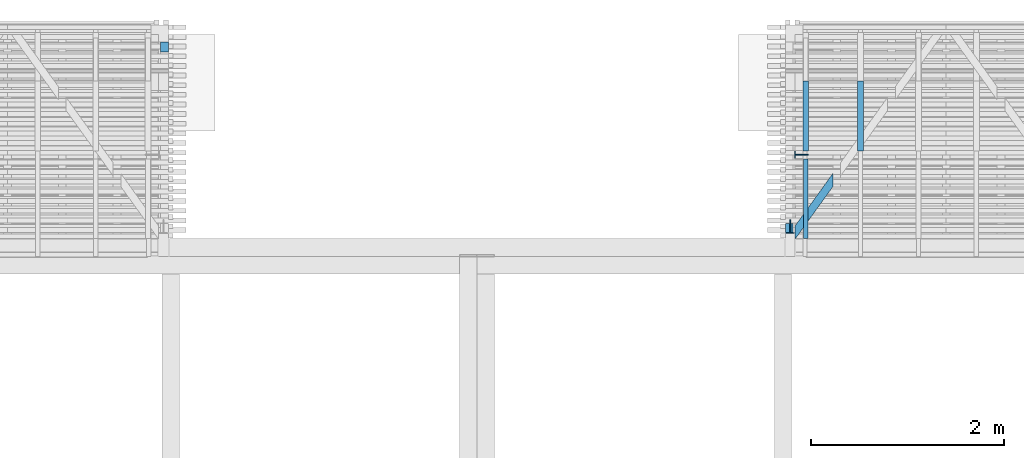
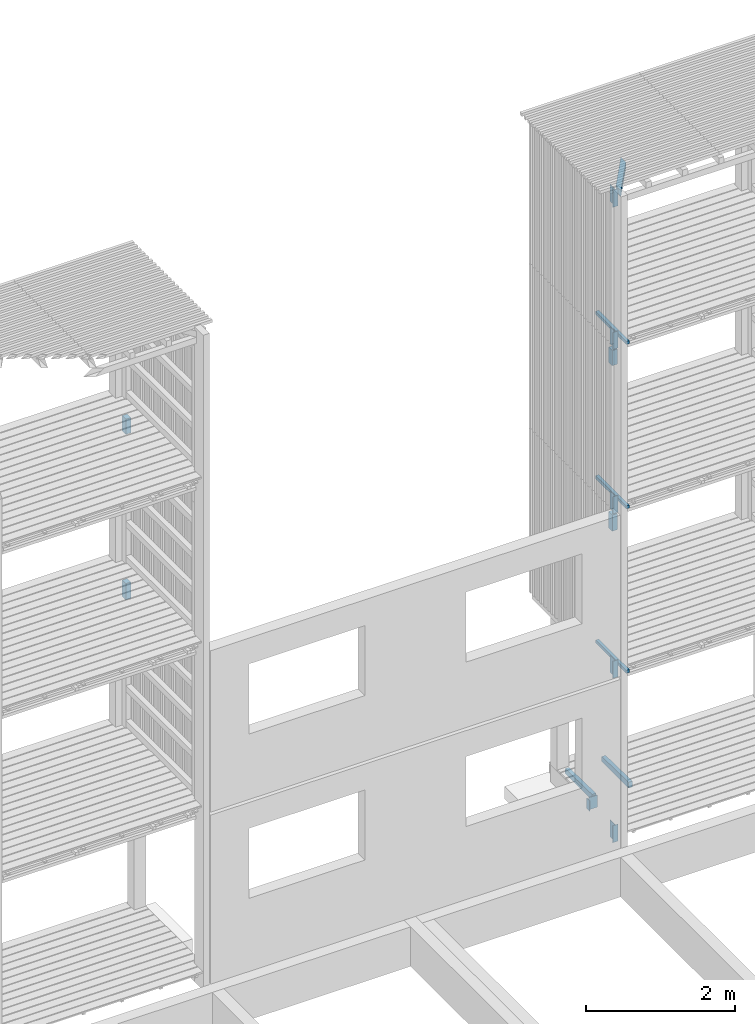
# One storey, part 167 of 182: 16 beams.
"""IFC2X3 building model written with IfcOpenShell, lengths in metres."""

from ifc_helpers import new_model, si_unit, frame, origin, place, context, project, spatial, faceted_brep, element, save


model = new_model("IFC2X3")

# Units and contexts
model_context = context("Model", 3, precision=1e-06, world=origin())
ifc_project = project(units=[si_unit("LENGTHUNIT", "METRE"), si_unit("PLANEANGLEUNIT", "RADIAN")], contexts=[model_context])

# Site, building, storey
site = spatial("IfcSite", under=ifc_project, CompositionType="ELEMENT")
building = spatial("IfcBuilding", under=site, CompositionType="ELEMENT")
storey = spatial("IfcBuildingStorey", under=building, Name="vs", CompositionType="ELEMENT", Elevation=-0.85)

# Beams
placement = place(None, origin())
beam_1_placement = place(placement, frame((23.08499999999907, 10.760077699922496, 7.576188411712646), z_axis=(0.0, 1.0, 0.0), x_axis=(0.0, 0.0, 1.0)))
element("IfcBeam", 1, at=beam_1_placement, inside=storey, Name="Support bardage", context=model_context, shape_type="Brep", body=[
    faceted_brep([(0.248811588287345, -0.039999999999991, 0.05), (0.248811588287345, -0.039999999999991, -0.050000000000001), (0.248811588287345, 0.040000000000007, -0.050000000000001), (0.248811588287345, 0.040000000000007, 0.05), (0.248811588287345, 0.040000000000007, -0.050000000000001), (0.248811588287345, -0.039999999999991, -0.050000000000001), (0.0, -0.039999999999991, -0.050000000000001), (0.0, 0.040000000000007, -0.050000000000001), (0.248811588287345, -0.039999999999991, -0.050000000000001), (0.248811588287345, -0.039999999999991, 0.05), (0.0, -0.039999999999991, 0.05), (0.0, -0.039999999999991, -0.050000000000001), (0.248811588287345, -0.039999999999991, 0.05), (0.248811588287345, 0.040000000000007, 0.05), (0.0, 0.040000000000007, 0.05), (0.0, -0.039999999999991, 0.05), (0.248811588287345, 0.040000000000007, 0.05), (0.248811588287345, 0.040000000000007, -0.050000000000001), (0.0, 0.040000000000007, -0.050000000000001), (0.0, 0.040000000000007, 0.05), (0.0, -0.039999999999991, 0.05), (0.0, 0.040000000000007, 0.05), (0.0, 0.040000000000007, -0.050000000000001), (0.0, -0.039999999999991, -0.050000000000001)], [[[0, 1, 2, 3]], [[4, 5, 6, 7]], [[8, 9, 10, 11]], [[12, 13, 14, 15]], [[16, 17, 18, 19]], [[20, 21, 22, 23]]]),
])
beam_2_placement = place(placement, frame((23.82299999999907, 11.565077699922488, -0.091949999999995), z_axis=(0.0, 0.0, 1.0), x_axis=(0.0, 1.0, 0.0)))
element("IfcBeam", 2, at=beam_2_placement, inside=storey, Name="Solive", context=model_context, shape_type="Brep", body=[
    faceted_brep([(0.0, -0.030000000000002, -0.04805), (0.0, 0.030000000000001, -0.04805), (0.725000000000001, 0.030000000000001, -0.04805), (0.725000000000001, -0.030000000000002, -0.04805), (0.725000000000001, -0.030000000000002, 0.033549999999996), (0.0, -0.030000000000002, 0.048049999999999), (0.0, -0.030000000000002, -0.04805), (0.725000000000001, -0.030000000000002, -0.04805), (0.0, -0.030000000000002, 0.048049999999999), (0.725000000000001, -0.030000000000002, 0.033549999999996), (0.725000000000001, 0.030000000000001, 0.033549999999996), (0.0, 0.030000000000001, 0.048049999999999), (0.0, -0.030000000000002, 0.048049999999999), (0.0, 0.030000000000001, 0.048049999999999), (0.0, 0.030000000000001, -0.04805), (0.0, -0.030000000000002, -0.04805), (0.0, 0.030000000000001, -0.04805), (0.0, 0.030000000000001, 0.048049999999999), (0.725000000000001, 0.030000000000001, 0.033549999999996), (0.725000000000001, 0.030000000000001, -0.04805), (0.725000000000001, -0.030000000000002, 0.033549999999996), (0.725000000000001, -0.030000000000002, -0.04805), (0.725000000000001, 0.030000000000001, -0.04805), (0.725000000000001, 0.030000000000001, 0.033549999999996)], [[[0, 1, 2, 3]], [[4, 5, 6, 7]], [[8, 9, 10, 11]], [[12, 13, 14, 15]], [[16, 17, 18, 19]], [[20, 21, 22, 23]]]),
])
beam_3_placement = place(placement, frame((16.614197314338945, 12.640077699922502, 4.85796194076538), z_axis=(0.0, -1.0, 0.0), x_axis=(0.0, 0.0, 1.0)))
element("IfcBeam", 3, at=beam_3_placement, inside=storey, Name="Support bardage", context=model_context, shape_type="Brep", body=[
    faceted_brep([(0.267038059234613, -0.039999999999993, -0.05), (0.267038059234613, 0.04000000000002, -0.05), (0.267038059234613, 0.04000000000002, 0.050000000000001), (0.267038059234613, -0.039999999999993, 0.050000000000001), (0.267038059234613, -0.039999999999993, -0.05), (0.267038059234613, -0.039999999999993, 0.050000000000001), (0.0, -0.039999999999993, 0.050000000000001), (0.0, -0.039999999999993, -0.05), (0.267038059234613, 0.04000000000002, -0.05), (0.267038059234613, -0.039999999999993, -0.05), (0.0, -0.039999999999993, -0.05), (0.0, 0.04000000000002, -0.05), (0.0, -0.039999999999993, 0.050000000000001), (0.267038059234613, -0.039999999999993, 0.050000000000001), (0.267038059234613, 0.04000000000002, 0.050000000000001), (0.0, 0.04000000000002, 0.050000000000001), (0.0, 0.04000000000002, 0.050000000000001), (0.267038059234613, 0.04000000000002, 0.050000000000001), (0.267038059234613, 0.04000000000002, -0.05), (0.0, 0.04000000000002, -0.05), (0.0, -0.039999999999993, 0.050000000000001), (0.0, 0.04000000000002, 0.050000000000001), (0.0, 0.04000000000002, -0.05), (0.0, -0.039999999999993, -0.05)], [[[0, 1, 2, 3]], [[4, 5, 6, 7]], [[8, 9, 10, 11]], [[12, 13, 14, 15]], [[16, 17, 18, 19]], [[20, 21, 22, 23]]]),
])
beam_4_placement = place(placement, frame((23.25499999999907, 11.565077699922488, -0.091949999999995), z_axis=(0.0, 0.0, 1.0), x_axis=(0.0, 1.0, 0.0)))
element("IfcBeam", 4, at=beam_4_placement, inside=storey, Name="Solive", context=model_context, shape_type="Brep", body=[
    faceted_brep([(0.0, -0.030000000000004, -0.04805), (0.0, 0.029999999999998, -0.04805), (0.725000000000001, 0.029999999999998, -0.04805), (0.725000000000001, -0.030000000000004, -0.04805), (0.725000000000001, -0.030000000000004, 0.033549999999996), (0.0, -0.030000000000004, 0.048049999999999), (0.0, -0.030000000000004, -0.04805), (0.725000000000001, -0.030000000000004, -0.04805), (0.0, -0.030000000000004, 0.048049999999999), (0.725000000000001, -0.030000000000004, 0.033549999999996), (0.725000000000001, 0.029999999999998, 0.033549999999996), (0.0, 0.029999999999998, 0.048049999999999), (0.0, -0.030000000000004, 0.048049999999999), (0.0, 0.029999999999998, 0.048049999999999), (0.0, 0.029999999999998, -0.04805), (0.0, -0.030000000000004, -0.04805), (0.0, 0.029999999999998, -0.04805), (0.0, 0.029999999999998, 0.048049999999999), (0.725000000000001, 0.029999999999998, 0.033549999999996), (0.725000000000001, 0.029999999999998, -0.04805), (0.725000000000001, -0.030000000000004, 0.033549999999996), (0.725000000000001, -0.030000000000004, -0.04805), (0.725000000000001, 0.029999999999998, -0.04805), (0.725000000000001, 0.029999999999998, 0.033549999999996)], [[[0, 1, 2, 3]], [[4, 5, 6, 7]], [[8, 9, 10, 11]], [[12, 13, 14, 15]], [[16, 17, 18, 19]], [[20, 21, 22, 23]]]),
])
beam_5_placement = place(placement, frame((23.08499999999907, 10.760077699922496, 4.85796194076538), z_axis=(0.0, 1.0, 0.0), x_axis=(0.0, 0.0, 1.0)))
element("IfcBeam", 5, at=beam_5_placement, inside=storey, Name="Support bardage", context=model_context, shape_type="Brep", body=[
    faceted_brep([(0.267038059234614, -0.039999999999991, 0.05), (0.267038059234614, -0.039999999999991, -0.050000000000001), (0.267038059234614, 0.040000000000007, -0.050000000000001), (0.267038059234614, 0.040000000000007, 0.05), (0.267038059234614, 0.040000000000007, -0.050000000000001), (0.267038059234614, -0.039999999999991, -0.050000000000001), (0.0, -0.039999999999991, -0.050000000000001), (0.0, 0.040000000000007, -0.050000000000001), (0.267038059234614, 0.040000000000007, 0.05), (0.267038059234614, 0.040000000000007, -0.050000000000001), (0.0, 0.040000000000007, -0.050000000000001), (0.0, 0.040000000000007, 0.05), (0.267038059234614, -0.039999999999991, -0.050000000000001), (0.267038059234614, -0.039999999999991, 0.05), (0.0, -0.039999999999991, 0.05), (0.0, -0.039999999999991, -0.050000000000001), (0.267038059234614, -0.039999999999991, 0.05), (0.267038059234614, 0.040000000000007, 0.05), (0.0, 0.040000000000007, 0.05), (0.0, -0.039999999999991, 0.05), (0.0, -0.039999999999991, -0.050000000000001), (0.0, -0.039999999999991, 0.05), (0.0, 0.040000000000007, 0.05), (0.0, 0.040000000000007, -0.050000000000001)], [[[0, 1, 2, 3]], [[4, 5, 6, 7]], [[8, 9, 10, 11]], [[12, 13, 14, 15]], [[16, 17, 18, 19]], [[20, 21, 22, 23]]]),
])
beam_6_placement = place(placement, frame((16.614197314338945, 12.640077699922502, 7.576188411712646), z_axis=(0.0, -1.0, 0.0), x_axis=(0.0, 0.0, 1.0)))
element("IfcBeam", 6, at=beam_6_placement, inside=storey, Name="Support bardage", context=model_context, shape_type="Brep", body=[
    faceted_brep([(0.248811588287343, -0.039999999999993, -0.05), (0.248811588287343, 0.04000000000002, -0.05), (0.248811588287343, 0.04000000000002, 0.050000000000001), (0.248811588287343, -0.039999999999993, 0.050000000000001), (0.248811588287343, -0.039999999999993, -0.05), (0.248811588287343, -0.039999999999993, 0.050000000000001), (0.0, -0.039999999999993, 0.050000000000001), (0.0, -0.039999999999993, -0.05), (0.0, -0.039999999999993, 0.050000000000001), (0.248811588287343, -0.039999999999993, 0.050000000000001), (0.248811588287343, 0.04000000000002, 0.050000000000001), (0.0, 0.04000000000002, 0.050000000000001), (0.0, 0.04000000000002, 0.050000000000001), (0.248811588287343, 0.04000000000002, 0.050000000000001), (0.248811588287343, 0.04000000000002, -0.05), (0.0, 0.04000000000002, -0.05), (0.0, 0.04000000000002, -0.05), (0.248811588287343, 0.04000000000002, -0.05), (0.248811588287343, -0.039999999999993, -0.05), (0.0, -0.039999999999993, -0.05), (0.0, 0.04000000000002, 0.050000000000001), (0.0, 0.04000000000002, -0.05), (0.0, -0.039999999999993, -0.05), (0.0, -0.039999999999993, 0.050000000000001)], [[[0, 1, 2, 3]], [[4, 5, 6, 7]], [[8, 9, 10, 11]], [[12, 13, 14, 15]], [[16, 17, 18, 19]], [[20, 21, 22, 23]]]),
])
for number, where, z_axis, x_axis in (
    (7, (23.25499999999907, 10.655077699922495, 7.917999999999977), (0.0, 0.0, 1.0), (0.0, 1.0, 0.0)),
    (8, (23.25499999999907, 10.655077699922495, 5.217999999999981), (0.0, 0.0, 1.0), (0.0, 1.0, 0.0)),
):
    element("IfcBeam", number, at=place(placement, frame(where, z_axis=z_axis, x_axis=x_axis)), inside=storey, Name="Calage", context=model_context, shape_type="Brep", body=[
        faceted_brep([(0.824999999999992, -0.025000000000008, 0.024999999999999), (0.824999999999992, 0.024999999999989, 0.024999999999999), (-1e-15, 0.024999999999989, 0.024999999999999), (-1e-15, -0.025000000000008, 0.024999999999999), (-1e-15, 0.024999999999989, 0.024999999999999), (0.824999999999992, 0.024999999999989, 0.024999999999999), (0.824999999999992, 0.024999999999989, -0.025), (-1e-15, 0.024999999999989, -0.025), (0.824999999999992, 0.024999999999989, 0.024999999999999), (0.824999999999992, -0.025000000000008, 0.024999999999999), (0.824999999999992, -0.025000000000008, -0.025), (0.824999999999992, 0.024999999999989, -0.025), (0.824999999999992, -0.025000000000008, -0.025), (0.824999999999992, -0.025000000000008, 0.024999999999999), (-1e-15, -0.025000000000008, 0.024999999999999), (-1e-15, -0.025000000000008, -0.025), (-1e-15, 0.024999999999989, -0.025), (0.824999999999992, 0.024999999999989, -0.025), (0.824999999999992, -0.025000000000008, -0.025), (-1e-15, -0.025000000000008, -0.025), (-1e-15, 0.024999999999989, 0.024999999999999), (-1e-15, 0.024999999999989, -0.025), (-1e-15, -0.025000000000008, -0.025), (-1e-15, -0.025000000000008, 0.024999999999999)], [[[0, 1, 2, 3]], [[4, 5, 6, 7]], [[8, 9, 10, 11]], [[12, 13, 14, 15]], [[16, 17, 18, 19]], [[20, 21, 22, 23]]]),
    ])
beam_7_placement = place(placement, frame((23.05399999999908, 10.781077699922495, 10.314999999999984), z_axis=(0.0, 0.0, 1.0), x_axis=(1.0, 0.0, 0.0)))
element("IfcBeam", 9, at=beam_7_placement, inside=storey, Name="Contre-usinage", context=model_context, shape_type="Brep", body=[
    faceted_brep([(0.037000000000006, -0.065999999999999, -0.140000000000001), (0.037000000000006, 0.071000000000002, -0.140000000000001), (0.045000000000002, 0.071000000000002, -0.140000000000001), (0.045000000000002, -0.065999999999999, -0.140000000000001), (0.081999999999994, -0.065999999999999, -0.140000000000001), (0.081999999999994, -0.071000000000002, -0.140000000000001), (0.0, -0.071000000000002, -0.140000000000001), (0.0, -0.065999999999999, -0.140000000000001), (0.045000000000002, 0.071000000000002, -0.140000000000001), (0.037000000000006, 0.071000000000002, -0.140000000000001), (0.037000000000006, 0.071000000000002, 0.140000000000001), (0.045000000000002, 0.071000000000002, 0.140000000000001), (0.045000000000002, -0.065999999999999, 0.140000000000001), (0.045000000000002, -0.065999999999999, -0.140000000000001), (0.045000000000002, 0.071000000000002, -0.140000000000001), (0.045000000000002, 0.071000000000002, 0.140000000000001), (0.081999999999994, -0.065999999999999, -0.140000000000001), (0.045000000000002, -0.065999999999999, -0.140000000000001), (0.045000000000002, -0.065999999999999, 0.140000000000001), (0.081999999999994, -0.065999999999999, 0.140000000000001), (0.081999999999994, -0.071000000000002, -0.140000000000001), (0.081999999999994, -0.065999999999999, -0.140000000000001), (0.081999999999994, -0.065999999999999, 0.140000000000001), (0.081999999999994, -0.071000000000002, 0.140000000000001), (0.0, -0.071000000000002, -0.140000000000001), (0.081999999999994, -0.071000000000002, -0.140000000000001), (0.081999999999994, -0.071000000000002, 0.140000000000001), (0.0, -0.071000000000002, 0.140000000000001), (0.0, -0.065999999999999, -0.140000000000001), (0.0, -0.071000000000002, -0.140000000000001), (0.0, -0.071000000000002, 0.140000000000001), (0.0, -0.065999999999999, 0.140000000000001), (0.037000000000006, -0.065999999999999, -0.140000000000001), (0.0, -0.065999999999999, -0.140000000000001), (0.0, -0.065999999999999, 0.140000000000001), (0.037000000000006, -0.065999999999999, 0.140000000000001), (0.037000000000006, 0.071000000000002, 0.140000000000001), (0.037000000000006, 0.071000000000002, -0.140000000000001), (0.037000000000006, -0.065999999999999, -0.140000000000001), (0.037000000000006, -0.065999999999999, 0.140000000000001), (0.081999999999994, -0.065999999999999, 0.140000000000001), (0.045000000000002, -0.065999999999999, 0.140000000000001), (0.045000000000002, 0.071000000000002, 0.140000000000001), (0.037000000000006, 0.071000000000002, 0.140000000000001), (0.037000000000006, -0.065999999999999, 0.140000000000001), (0.0, -0.065999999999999, 0.140000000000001), (0.0, -0.071000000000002, 0.140000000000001), (0.081999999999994, -0.071000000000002, 0.140000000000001)], [[[0, 1, 2, 3, 4, 5, 6, 7]], [[8, 9, 10, 11]], [[12, 13, 14, 15]], [[16, 17, 18, 19]], [[20, 21, 22, 23]], [[24, 25, 26, 27]], [[28, 29, 30, 31]], [[32, 33, 34, 35]], [[36, 37, 38, 39]], [[40, 41, 42, 43, 44, 45, 46, 47]]]),
])
beam_8_placement = place(placement, frame((23.210999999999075, 11.525077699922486, -0.243899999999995), z_axis=(1.0, 0.0, 0.0), x_axis=(0.0, 0.0, 1.0)))
element("IfcBeam", 10, at=beam_8_placement, inside=storey, Name="Contre-usinage", context=model_context, shape_type="Brep", body=[
    faceted_brep([(0.2, 0.004000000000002, -0.066000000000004), (0.2, -0.004000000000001, -0.066000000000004), (0.175, -0.004000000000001, -0.066000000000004), (0.175, 0.004000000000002, -0.066000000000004), (0.175, -0.004000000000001, -0.066000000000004), (0.0, -0.004000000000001, -0.066000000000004), (0.0, -0.038, -0.066000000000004), (0.175, -0.038, -0.066000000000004), (0.175, 0.038000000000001, -0.066000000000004), (0.0, 0.038000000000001, -0.066000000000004), (0.0, 0.004000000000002, -0.066000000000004), (0.175, 0.004000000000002, -0.066000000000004), (0.2, 0.004000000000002, -0.066000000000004), (0.175, 0.004000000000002, -0.066000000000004), (0.0, 0.004000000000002, -0.066000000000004), (0.0, 0.004000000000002, 0.070999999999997), (0.2, 0.004000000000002, 0.070999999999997), (0.2, 0.004000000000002, 0.070999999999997), (0.0, 0.004000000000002, 0.070999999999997), (0.0, -0.004000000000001, 0.070999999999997), (0.2, -0.004000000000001, 0.070999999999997), (0.175, -0.038, -0.070999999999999), (0.0, -0.038, -0.070999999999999), (0.0, 0.038000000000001, -0.070999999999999), (0.175, 0.038000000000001, -0.070999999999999), (0.2, -0.004000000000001, -0.066000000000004), (0.2, 0.004000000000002, -0.066000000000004), (0.2, 0.004000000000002, 0.070999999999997), (0.2, -0.004000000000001, 0.070999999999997), (0.2, -0.004000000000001, 0.070999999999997), (0.0, -0.004000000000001, 0.070999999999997), (0.0, -0.004000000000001, -0.066000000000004), (0.175, -0.004000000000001, -0.066000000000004), (0.2, -0.004000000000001, -0.066000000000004), (0.175, 0.038000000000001, -0.066000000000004), (0.175, 0.004000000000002, -0.066000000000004), (0.175, -0.004000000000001, -0.066000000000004), (0.175, -0.038, -0.066000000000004), (0.175, -0.038, -0.070999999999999), (0.175, 0.038000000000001, -0.070999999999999), (0.0, -0.038, -0.066000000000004), (0.0, -0.004000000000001, -0.066000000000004), (0.0, -0.004000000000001, 0.070999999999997), (0.0, 0.004000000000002, 0.070999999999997), (0.0, 0.004000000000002, -0.066000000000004), (0.0, 0.038000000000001, -0.066000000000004), (0.0, 0.038000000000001, -0.070999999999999), (0.0, -0.038, -0.070999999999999), (0.175, -0.038, -0.070999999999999), (0.175, -0.038, -0.066000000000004), (0.0, -0.038, -0.066000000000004), (0.0, -0.038, -0.070999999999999), (0.175, 0.038000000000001, -0.066000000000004), (0.175, 0.038000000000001, -0.070999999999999), (0.0, 0.038000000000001, -0.070999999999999), (0.0, 0.038000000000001, -0.066000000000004)], [[[0, 1, 2, 3]], [[4, 5, 6, 7]], [[8, 9, 10, 11]], [[12, 13, 14, 15, 16]], [[17, 18, 19, 20]], [[21, 22, 23, 24]], [[25, 26, 27, 28]], [[29, 30, 31, 32, 33]], [[34, 35, 36, 37, 38, 39]], [[40, 41, 42, 43, 44, 45, 46, 47]], [[48, 49, 50, 51]], [[52, 53, 54, 55]]]),
])
beam_9_placement = place(placement, frame((23.25499999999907, 10.655077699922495, 2.517999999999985), z_axis=(0.0, 0.0, 1.0), x_axis=(0.0, 1.0, 0.0)))
element("IfcBeam", 11, at=beam_9_placement, inside=storey, Name="Calage", context=model_context, shape_type="Brep", body=[
    faceted_brep([(0.824999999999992, -0.025000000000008, 0.025), (0.824999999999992, 0.024999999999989, 0.025), (-1e-15, 0.024999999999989, 0.025), (-1e-15, -0.025000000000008, 0.025), (-1e-15, 0.024999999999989, 0.025), (0.824999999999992, 0.024999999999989, 0.025), (0.824999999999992, 0.024999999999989, -0.025), (-1e-15, 0.024999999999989, -0.025), (0.824999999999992, 0.024999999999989, 0.025), (0.824999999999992, -0.025000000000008, 0.025), (0.824999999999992, -0.025000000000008, -0.025), (0.824999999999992, 0.024999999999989, -0.025), (0.824999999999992, -0.025000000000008, -0.025), (0.824999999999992, -0.025000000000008, 0.025), (-1e-15, -0.025000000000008, 0.025), (-1e-15, -0.025000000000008, -0.025), (-1e-15, 0.024999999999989, -0.025), (0.824999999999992, 0.024999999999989, -0.025), (0.824999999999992, -0.025000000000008, -0.025), (-1e-15, -0.025000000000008, -0.025), (-1e-15, 0.024999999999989, 0.025), (-1e-15, 0.024999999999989, -0.025), (-1e-15, -0.025000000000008, -0.025), (-1e-15, -0.025000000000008, 0.025)], [[[0, 1, 2, 3]], [[4, 5, 6, 7]], [[8, 9, 10, 11]], [[12, 13, 14, 15]], [[16, 17, 18, 19]], [[20, 21, 22, 23]]]),
])
beam_10_placement = place(placement, frame((23.053999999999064, 10.781077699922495, 5.279999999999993), z_axis=(0.0, 0.0, 1.0), x_axis=(1.0, 0.0, 0.0)))
element("IfcBeam", 12, at=beam_10_placement, inside=storey, Name="Contre-usinage", context=model_context, shape_type="Brep", body=[
    faceted_brep([(0.037000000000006, -0.065999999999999, -0.140000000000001), (0.037000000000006, 0.071000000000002, -0.140000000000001), (0.045000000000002, 0.071000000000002, -0.140000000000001), (0.045000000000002, -0.065999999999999, -0.140000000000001), (0.082000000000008, -0.065999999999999, -0.140000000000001), (0.082000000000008, -0.071000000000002, -0.140000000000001), (0.0, -0.071000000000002, -0.140000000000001), (0.0, -0.065999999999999, -0.140000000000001), (0.045000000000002, 0.071000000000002, -0.140000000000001), (0.037000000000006, 0.071000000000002, -0.140000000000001), (0.037000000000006, 0.071000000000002, 0.140000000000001), (0.045000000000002, 0.071000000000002, 0.140000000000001), (0.045000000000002, -0.065999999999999, 0.140000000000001), (0.045000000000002, -0.065999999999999, -0.140000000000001), (0.045000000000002, 0.071000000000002, -0.140000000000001), (0.045000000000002, 0.071000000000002, 0.140000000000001), (0.082000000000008, -0.065999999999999, -0.140000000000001), (0.045000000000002, -0.065999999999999, -0.140000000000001), (0.045000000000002, -0.065999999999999, 0.140000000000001), (0.082000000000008, -0.065999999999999, 0.140000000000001), (0.082000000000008, -0.071000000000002, -0.140000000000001), (0.082000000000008, -0.065999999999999, -0.140000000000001), (0.082000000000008, -0.065999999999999, 0.140000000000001), (0.082000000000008, -0.071000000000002, 0.140000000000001), (0.0, -0.071000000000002, -0.140000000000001), (0.082000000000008, -0.071000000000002, -0.140000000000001), (0.082000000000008, -0.071000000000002, 0.140000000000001), (0.0, -0.071000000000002, 0.140000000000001), (0.0, -0.065999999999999, -0.140000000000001), (0.0, -0.071000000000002, -0.140000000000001), (0.0, -0.071000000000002, 0.140000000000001), (0.0, -0.065999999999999, 0.140000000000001), (0.037000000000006, -0.065999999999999, -0.140000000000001), (0.0, -0.065999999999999, -0.140000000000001), (0.0, -0.065999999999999, 0.140000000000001), (0.037000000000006, -0.065999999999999, 0.140000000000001), (0.037000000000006, 0.071000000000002, 0.140000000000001), (0.037000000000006, 0.071000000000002, -0.140000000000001), (0.037000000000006, -0.065999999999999, -0.140000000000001), (0.037000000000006, -0.065999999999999, 0.140000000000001), (0.082000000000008, -0.065999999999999, 0.140000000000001), (0.045000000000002, -0.065999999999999, 0.140000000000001), (0.045000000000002, 0.071000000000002, 0.140000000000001), (0.037000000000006, 0.071000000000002, 0.140000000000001), (0.037000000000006, -0.065999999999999, 0.140000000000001), (0.0, -0.065999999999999, 0.140000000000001), (0.0, -0.071000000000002, 0.140000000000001), (0.082000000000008, -0.071000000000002, 0.140000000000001)], [[[0, 1, 2, 3, 4, 5, 6, 7]], [[8, 9, 10, 11]], [[12, 13, 14, 15]], [[16, 17, 18, 19]], [[20, 21, 22, 23]], [[24, 25, 26, 27]], [[28, 29, 30, 31]], [[32, 33, 34, 35]], [[36, 37, 38, 39]], [[40, 41, 42, 43, 44, 45, 46, 47]]]),
])
beam_11_placement = place(placement, frame((23.053999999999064, 10.781077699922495, -0.119999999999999), z_axis=(0.0, 0.0, 1.0), x_axis=(1.0, 0.0, 0.0)))
element("IfcBeam", 13, at=beam_11_placement, inside=storey, Name="Contre-usinage", context=model_context, shape_type="Brep", body=[
    faceted_brep([(0.037000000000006, -0.065999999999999, -0.14), (0.037000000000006, 0.071000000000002, -0.14), (0.045000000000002, 0.071000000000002, -0.14), (0.045000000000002, -0.065999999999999, -0.14), (0.082000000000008, -0.065999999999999, -0.14), (0.082000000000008, -0.071000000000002, -0.14), (0.0, -0.071000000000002, -0.14), (0.0, -0.065999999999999, -0.14), (0.045000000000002, 0.071000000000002, -0.14), (0.037000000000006, 0.071000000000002, -0.14), (0.037000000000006, 0.071000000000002, 0.14), (0.045000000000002, 0.071000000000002, 0.14), (0.045000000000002, -0.065999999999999, 0.14), (0.045000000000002, -0.065999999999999, -0.14), (0.045000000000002, 0.071000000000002, -0.14), (0.045000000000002, 0.071000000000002, 0.14), (0.082000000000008, -0.065999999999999, -0.14), (0.045000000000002, -0.065999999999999, -0.14), (0.045000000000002, -0.065999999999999, 0.14), (0.082000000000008, -0.065999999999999, 0.14), (0.082000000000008, -0.071000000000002, -0.14), (0.082000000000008, -0.065999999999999, -0.14), (0.082000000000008, -0.065999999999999, 0.14), (0.082000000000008, -0.071000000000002, 0.14), (0.0, -0.071000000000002, -0.14), (0.082000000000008, -0.071000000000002, -0.14), (0.082000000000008, -0.071000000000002, 0.14), (0.0, -0.071000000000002, 0.14), (0.0, -0.065999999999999, -0.14), (0.0, -0.071000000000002, -0.14), (0.0, -0.071000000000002, 0.14), (0.0, -0.065999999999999, 0.14), (0.037000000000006, -0.065999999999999, -0.14), (0.0, -0.065999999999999, -0.14), (0.0, -0.065999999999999, 0.14), (0.037000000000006, -0.065999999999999, 0.14), (0.037000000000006, 0.071000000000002, 0.14), (0.037000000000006, 0.071000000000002, -0.14), (0.037000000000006, -0.065999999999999, -0.14), (0.037000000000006, -0.065999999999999, 0.14), (0.082000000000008, -0.065999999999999, 0.14), (0.045000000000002, -0.065999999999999, 0.14), (0.045000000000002, 0.071000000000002, 0.14), (0.037000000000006, 0.071000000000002, 0.14), (0.037000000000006, -0.065999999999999, 0.14), (0.0, -0.065999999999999, 0.14), (0.0, -0.071000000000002, 0.14), (0.082000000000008, -0.071000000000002, 0.14)], [[[0, 1, 2, 3, 4, 5, 6, 7]], [[8, 9, 10, 11]], [[12, 13, 14, 15]], [[16, 17, 18, 19]], [[20, 21, 22, 23]], [[24, 25, 26, 27]], [[28, 29, 30, 31]], [[32, 33, 34, 35]], [[36, 37, 38, 39]], [[40, 41, 42, 43, 44, 45, 46, 47]]]),
])
beam_12_placement = place(placement, frame((23.053999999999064, 10.781077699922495, 2.579999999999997), z_axis=(0.0, 0.0, 1.0), x_axis=(1.0, 0.0, 0.0)))
element("IfcBeam", 14, at=beam_12_placement, inside=storey, Name="Contre-usinage", context=model_context, shape_type="Brep", body=[
    faceted_brep([(0.037000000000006, -0.065999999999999, -0.14), (0.037000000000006, 0.071000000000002, -0.14), (0.045000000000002, 0.071000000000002, -0.14), (0.045000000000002, -0.065999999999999, -0.14), (0.082000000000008, -0.065999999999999, -0.14), (0.082000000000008, -0.071000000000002, -0.14), (0.0, -0.071000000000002, -0.14), (0.0, -0.065999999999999, -0.14), (0.045000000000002, 0.071000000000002, -0.14), (0.037000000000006, 0.071000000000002, -0.14), (0.037000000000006, 0.071000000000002, 0.14), (0.045000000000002, 0.071000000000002, 0.14), (0.045000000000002, -0.065999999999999, 0.14), (0.045000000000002, -0.065999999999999, -0.14), (0.045000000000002, 0.071000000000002, -0.14), (0.045000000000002, 0.071000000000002, 0.14), (0.082000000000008, -0.065999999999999, -0.14), (0.045000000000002, -0.065999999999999, -0.14), (0.045000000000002, -0.065999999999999, 0.14), (0.082000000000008, -0.065999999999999, 0.14), (0.082000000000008, -0.071000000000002, -0.14), (0.082000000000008, -0.065999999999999, -0.14), (0.082000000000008, -0.065999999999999, 0.14), (0.082000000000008, -0.071000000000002, 0.14), (0.0, -0.071000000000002, -0.14), (0.082000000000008, -0.071000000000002, -0.14), (0.082000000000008, -0.071000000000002, 0.14), (0.0, -0.071000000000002, 0.14), (0.0, -0.065999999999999, -0.14), (0.0, -0.071000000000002, -0.14), (0.0, -0.071000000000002, 0.14), (0.0, -0.065999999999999, 0.14), (0.037000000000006, -0.065999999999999, -0.14), (0.0, -0.065999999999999, -0.14), (0.0, -0.065999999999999, 0.14), (0.037000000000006, -0.065999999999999, 0.14), (0.037000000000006, 0.071000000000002, 0.14), (0.037000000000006, 0.071000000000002, -0.14), (0.037000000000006, -0.065999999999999, -0.14), (0.037000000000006, -0.065999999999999, 0.14), (0.082000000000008, -0.065999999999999, 0.14), (0.045000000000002, -0.065999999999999, 0.14), (0.045000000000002, 0.071000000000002, 0.14), (0.037000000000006, 0.071000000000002, 0.14), (0.037000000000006, -0.065999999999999, 0.14), (0.0, -0.065999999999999, 0.14), (0.0, -0.071000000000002, 0.14), (0.082000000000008, -0.071000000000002, 0.14)], [[[0, 1, 2, 3, 4, 5, 6, 7]], [[8, 9, 10, 11]], [[12, 13, 14, 15]], [[16, 17, 18, 19]], [[20, 21, 22, 23]], [[24, 25, 26, 27]], [[28, 29, 30, 31]], [[32, 33, 34, 35]], [[36, 37, 38, 39]], [[40, 41, 42, 43, 44, 45, 46, 47]]]),
])
beam_13_placement = place(placement, frame((23.05399999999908, 10.781077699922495, 7.979999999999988), z_axis=(0.0, 0.0, 1.0), x_axis=(1.0, 0.0, 0.0)))
element("IfcBeam", 15, at=beam_13_placement, inside=storey, Name="Contre-usinage", context=model_context, shape_type="Brep", body=[
    faceted_brep([(0.036999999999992, -0.065999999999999, -0.14), (0.036999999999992, 0.071000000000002, -0.14), (0.044999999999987, 0.071000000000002, -0.14), (0.044999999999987, -0.065999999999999, -0.14), (0.081999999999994, -0.065999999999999, -0.14), (0.081999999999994, -0.071000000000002, -0.14), (0.0, -0.071000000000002, -0.14), (0.0, -0.065999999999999, -0.14), (0.044999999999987, 0.071000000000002, -0.14), (0.036999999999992, 0.071000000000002, -0.14), (0.036999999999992, 0.071000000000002, 0.140000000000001), (0.044999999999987, 0.071000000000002, 0.140000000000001), (0.044999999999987, -0.065999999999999, 0.140000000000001), (0.044999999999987, -0.065999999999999, -0.14), (0.044999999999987, 0.071000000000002, -0.14), (0.044999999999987, 0.071000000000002, 0.140000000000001), (0.081999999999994, -0.065999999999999, -0.14), (0.044999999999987, -0.065999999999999, -0.14), (0.044999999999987, -0.065999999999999, 0.140000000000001), (0.081999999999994, -0.065999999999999, 0.140000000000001), (0.081999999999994, -0.071000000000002, -0.14), (0.081999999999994, -0.065999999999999, -0.14), (0.081999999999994, -0.065999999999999, 0.140000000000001), (0.081999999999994, -0.071000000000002, 0.140000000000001), (0.0, -0.071000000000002, -0.14), (0.081999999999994, -0.071000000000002, -0.14), (0.081999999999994, -0.071000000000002, 0.140000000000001), (0.0, -0.071000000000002, 0.140000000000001), (0.0, -0.065999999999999, -0.14), (0.0, -0.071000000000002, -0.14), (0.0, -0.071000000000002, 0.140000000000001), (0.0, -0.065999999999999, 0.140000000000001), (0.036999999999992, -0.065999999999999, -0.14), (0.0, -0.065999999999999, -0.14), (0.0, -0.065999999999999, 0.140000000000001), (0.036999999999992, -0.065999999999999, 0.140000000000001), (0.036999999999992, 0.071000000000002, 0.140000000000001), (0.036999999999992, 0.071000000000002, -0.14), (0.036999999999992, -0.065999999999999, -0.14), (0.036999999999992, -0.065999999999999, 0.140000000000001), (0.081999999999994, -0.065999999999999, 0.140000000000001), (0.044999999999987, -0.065999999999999, 0.140000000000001), (0.044999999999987, 0.071000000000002, 0.140000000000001), (0.036999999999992, 0.071000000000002, 0.140000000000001), (0.036999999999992, -0.065999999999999, 0.140000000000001), (0.0, -0.065999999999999, 0.140000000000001), (0.0, -0.071000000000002, 0.140000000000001), (0.081999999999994, -0.071000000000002, 0.140000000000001)], [[[0, 1, 2, 3, 4, 5, 6, 7]], [[8, 9, 10, 11]], [[12, 13, 14, 15]], [[16, 17, 18, 19]], [[20, 21, 22, 23]], [[24, 25, 26, 27]], [[28, 29, 30, 31]], [[32, 33, 34, 35]], [[36, 37, 38, 39]], [[40, 41, 42, 43, 44, 45, 46, 47]]]),
])
beam_14_placement = place(placement, frame((23.112528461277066, 10.67343576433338, 10.404999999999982), z_axis=(0.0, 0.0, 1.0), x_axis=(0.583951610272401, 0.811788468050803, 0.0)))
element("IfcBeam", 16, at=beam_14_placement, inside=storey, Name="Support bardage", context=model_context, shape_type="Brep", body=[
    faceted_brep([(0.670717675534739, -0.039999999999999, 0.050000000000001), (0.670717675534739, -0.039999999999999, -0.050000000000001), (0.781930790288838, 0.040000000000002, -0.050000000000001), (0.781930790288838, 0.040000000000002, 0.050000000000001), (4e-15, -0.040000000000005, 0.050000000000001), (0.670717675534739, -0.039999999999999, 0.050000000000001), (0.781930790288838, 0.040000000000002, 0.050000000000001), (0.111213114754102, 0.039999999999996, 0.050000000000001), (0.111213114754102, 0.039999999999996, -0.049999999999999), (0.781930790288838, 0.040000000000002, -0.050000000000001), (0.670717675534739, -0.039999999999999, -0.050000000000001), (4e-15, -0.040000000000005, -0.050000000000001), (4e-15, -0.040000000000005, -0.050000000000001), (0.670717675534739, -0.039999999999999, -0.050000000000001), (0.670717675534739, -0.039999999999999, 0.050000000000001), (4e-15, -0.040000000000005, 0.050000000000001), (0.111213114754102, 0.039999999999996, -0.049999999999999), (4e-15, -0.040000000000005, -0.050000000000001), (4e-15, -0.040000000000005, 0.050000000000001), (0.111213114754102, 0.039999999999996, 0.050000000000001), (0.111213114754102, 0.039999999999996, -0.049999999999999), (0.111213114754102, 0.039999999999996, 0.050000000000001), (0.781930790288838, 0.040000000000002, 0.050000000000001), (0.781930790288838, 0.040000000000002, -0.050000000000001)], [[[0, 1, 2, 3]], [[4, 5, 6, 7]], [[8, 9, 10, 11]], [[12, 13, 14, 15]], [[16, 17, 18, 19]], [[20, 21, 22, 23]]]),
])

save(model, "model.ifc")
